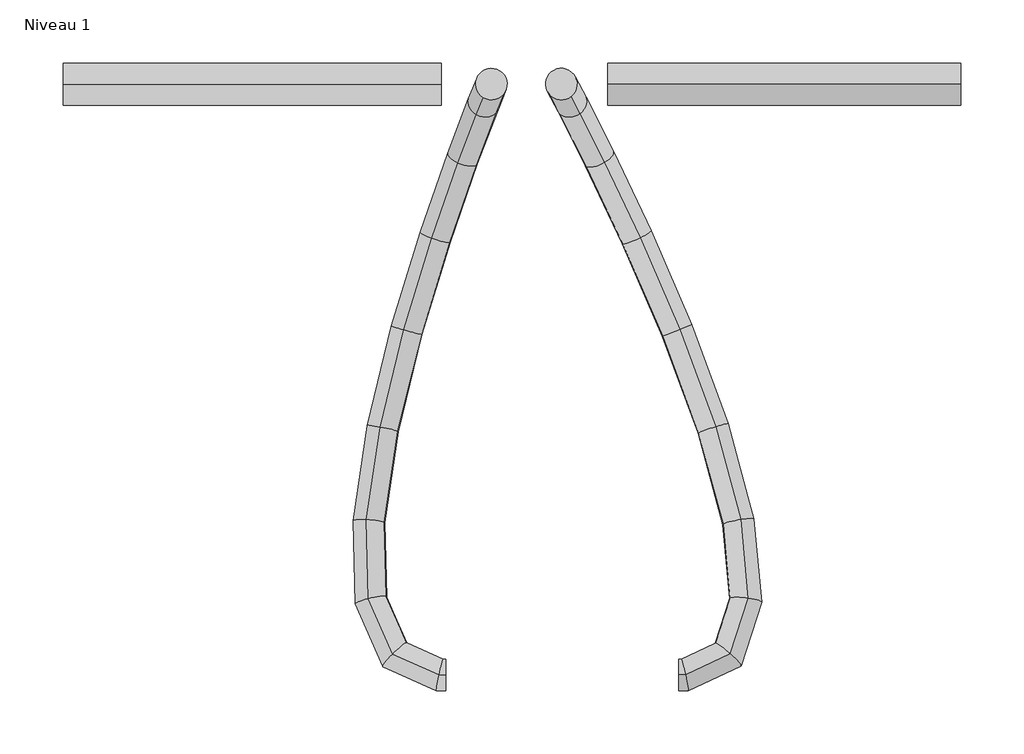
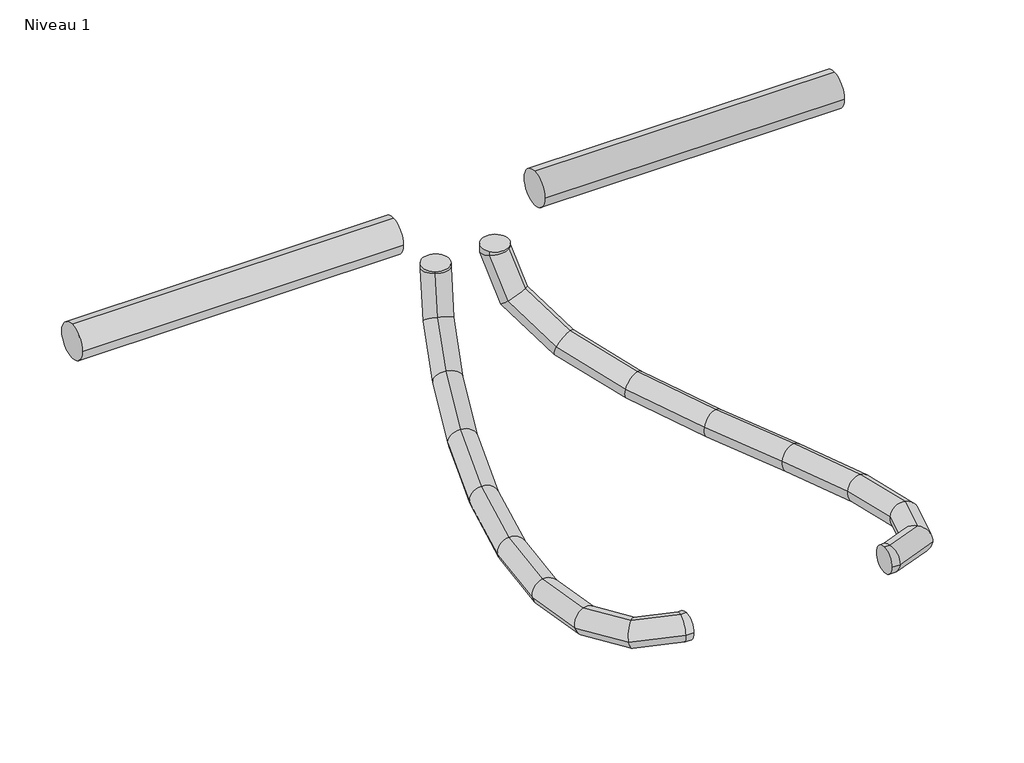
# One storey, incomplete: 4 pipe segments.
"""IFC4 building model written with IfcOpenShell, lengths in millimetres."""

from ifc_helpers import new_model, si_unit, point, frame, frame_2d, origin, place, context, project, spatial, circle_curve, ellipse_curve, trimmed, segment, composite_curve, outline, extrude, element, save
from ifc_brep_helpers import plane_surface, cylinder_surface, advanced_brep

model = new_model("IFC4")

# Units and contexts
model_context = context("Model", 3, world=origin())
ifc_project = project(units=[si_unit("LENGTHUNIT", "METRE", prefix="MILLI")], contexts=[model_context])

# Site, building, storey
site = spatial("IfcSite", under=ifc_project)
building = spatial("IfcBuilding", under=site)
storey = spatial("IfcBuildingStorey", under=building, Name="Niveau 1", Elevation=0.0)

# Pipe segments
placement = place(None, origin())
element("IfcPipeSegment", 1, ObjectType="Souple - Circulaire", at=placement, inside=storey, context=model_context, shape_type="AdvancedBrep", body=[
    advanced_brep(
    [(-2110.4258983, 1226.132937, 496.5257359), (-2110.4258983, 1238.632937, 484.0257359), (-2110.4258983, 1251.132937, 496.5257359), (-2110.4258983, 1238.632937, 509.0257359), (-2117.7360752, 1226.132937, 496.5257359), (-2114.5436776, 1238.632937, 484.0257359), (-2112.3823318, 1251.132937, 496.5257359), (-2115.5747295, 1238.632937, 509.0257359), (-2084.82139, 1713.7707472, 557.9740311), (-2080.5480413, 1696.6173659, 557.9740311), (-2063.3946599, 1700.8907147, 557.9740311), (-2067.6680087, 1718.044096, 557.9740311), (-2160.2363077, 1245.2447408, 492.8450846), (-2149.1142342, 1254.1788683, 481.031819), (-2141.3687604, 1264.1677583, 494.0154217), (-2152.4908339, 1255.2336308, 505.8286873), (-2181.8326985, 1294.7974241, 484.3792616), (-2167.4938726, 1296.3507483, 473.8269685), (-2157.3201424, 1300.7680303, 487.7624521), (-2171.6589683, 1299.2147061, 498.3147451), (-2183.5967386, 1360.6329258, 475.1604874), (-2169.1609747, 1358.5684427, 465.1147865), (-2158.8981713, 1359.661434, 479.5157618), (-2173.3339351, 1361.7259171, 489.5614627), (-2172.4095593, 1436.2965907, 467.776516), (-2158.1790429, 1432.8439316, 457.8662864), (-2148.2215105, 1431.8722445, 472.4687524), (-2162.4520269, 1435.3249036, 482.378982), (-2153.1122799, 1515.163437, 464.9301555), (-2138.9609078, 1511.3873199, 455.0315997), (-2129.4488354, 1508.5950637, 469.6997714), (-2143.6002076, 1512.3711808, 479.5983272), (-2130.2161245, 1589.9433754, 469.4720652), (-2115.8994645, 1586.7070963, 459.6062976), (-2107.0687169, 1581.6896007, 474.1393148), (-2121.3853769, 1584.9258799, 484.0050825), (-2108.1715495, 1653.1774768, 484.3564697), (-2093.218744, 1651.7659592, 474.9202249), (-2085.6304932, 1643.1844047, 488.6143136), (-2100.5832987, 1644.5959223, 498.0505584), (-2091.4440929, 1697.2625365, 512.7656725), (-2075.0940309, 1699.5334753, 505.7024686), (-2069.6684211, 1685.2523003, 515.7236197), (-2086.018483, 1682.9813615, 522.7868235), (-2084.82139, 1713.7707472, 552.9510488), (-2067.6680087, 1718.044096, 550.7622433), (-2063.3946599, 1700.8907147, 553.7916802), (-2080.5480413, 1696.6173659, 555.9804857)],
    [
        (0, 1, circle_curve(frame((-2110.4258983, 1238.632937, 496.5257359), z_axis=(1.0, 0.0, 0.0), x_axis=(0.0, -1.0, 0.0)), 12.5)),
        (1, 2, circle_curve(frame((-2110.4258983, 1238.632937, 496.5257359), z_axis=(1.0, 0.0, 0.0), x_axis=(0.0, -1.0, 0.0)), 12.5)),
        (2, 3, circle_curve(frame((-2110.4258983, 1238.632937, 496.5257359), z_axis=(1.0, 0.0, 0.0), x_axis=(0.0, -1.0, 0.0)), 12.5)),
        (3, 0, circle_curve(frame((-2110.4258983, 1238.632937, 496.5257359), z_axis=(1.0, 0.0, 0.0), x_axis=(0.0, -1.0, 0.0)), 12.5)),
        (0, 4),
        (4, 5, ellipse_curve(frame((-2115.0592035, 1238.632937, 496.5257359), z_axis=(0.9770354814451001, -0.2092318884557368, 0.04029497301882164), x_axis=(0.21307667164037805, 0.9594057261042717, -0.184767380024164)), 12.7938035, 12.5)),
        (5, 1),
        (5, 6, ellipse_curve(frame((-2115.0592035, 1238.632937, 496.5257359), z_axis=(0.9770354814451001, -0.2092318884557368, 0.04029497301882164), x_axis=(0.21307667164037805, 0.9594057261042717, -0.184767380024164)), 12.7938035, 12.5)),
        (6, 2),
        (6, 7, ellipse_curve(frame((-2115.0592035, 1238.632937, 496.5257359), z_axis=(0.9770354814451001, -0.2092318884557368, 0.04029497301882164), x_axis=(0.21307667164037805, 0.9594057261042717, -0.184767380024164)), 12.7938035, 12.5)),
        (7, 3),
        (7, 4, ellipse_curve(frame((-2115.0592035, 1238.632937, 496.5257359), z_axis=(0.9770354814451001, -0.2092318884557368, 0.04029497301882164), x_axis=(0.21307667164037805, 0.9594057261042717, -0.184767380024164)), 12.7938035, 12.5)),
        (8, 9, circle_curve(frame((-2074.108025, 1707.3307309, 557.9740311), z_axis=(0.0, 0.0, 1.0), x_axis=(-0.8570692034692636, 0.5152013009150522, 0.0)), 12.5)),
        (9, 10, circle_curve(frame((-2074.108025, 1707.3307309, 557.9740311), z_axis=(0.0, 0.0, 1.0), x_axis=(-0.8570692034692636, 0.5152013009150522, 0.0)), 12.5)),
        (10, 11, circle_curve(frame((-2074.108025, 1707.3307309, 557.9740311), z_axis=(0.0, 0.0, 1.0), x_axis=(-0.8570692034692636, 0.5152013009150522, 0.0)), 12.5)),
        (11, 8, circle_curve(frame((-2074.108025, 1707.3307309, 557.9740311), z_axis=(0.0, 0.0, 1.0), x_axis=(-0.8570692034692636, 0.5152013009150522, 0.0)), 12.5)),
        (4, 12),
        (12, 13, ellipse_curve(frame((-2150.802534, 1254.7062496, 493.4302532), z_axis=(0.6987010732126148, -0.7043902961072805, 0.12510444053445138), x_axis=(0.7153131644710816, 0.6907704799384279, -0.10565614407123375)), 13.3962051, 12.5)),
        (13, 5),
        (13, 14, ellipse_curve(frame((-2150.802534, 1254.7062496, 493.4302532), z_axis=(0.6987010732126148, -0.7043902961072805, 0.12510444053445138), x_axis=(0.7153131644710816, 0.6907704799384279, -0.10565614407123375)), 13.3962051, 12.5)),
        (14, 6),
        (14, 15, ellipse_curve(frame((-2150.802534, 1254.7062496, 493.4302532), z_axis=(0.6987010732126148, -0.7043902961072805, 0.12510444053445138), x_axis=(0.7153131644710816, 0.6907704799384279, -0.10565614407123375)), 13.3962051, 12.5)),
        (15, 7),
        (15, 12, ellipse_curve(frame((-2150.802534, 1254.7062496, 493.4302532), z_axis=(0.6987010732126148, -0.7043902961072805, 0.12510444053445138), x_axis=(0.7153131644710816, 0.6907704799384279, -0.10565614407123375)), 13.3962051, 12.5)),
        (12, 16),
        (16, 17, ellipse_curve(frame((-2169.5764205, 1297.7827272, 486.0708568), z_axis=(0.21448999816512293, -0.9652369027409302, 0.14937122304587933), x_axis=(0.9738862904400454, 0.223004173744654, 0.042598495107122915)), 12.7295031, 12.5)),
        (17, 13),
        (17, 18, ellipse_curve(frame((-2169.5764205, 1297.7827272, 486.0708568), z_axis=(0.21448999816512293, -0.9652369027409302, 0.14937122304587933), x_axis=(0.9738862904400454, 0.223004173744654, 0.042598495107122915)), 12.7295031, 12.5)),
        (18, 14),
        (18, 19, ellipse_curve(frame((-2169.5764205, 1297.7827272, 486.0708568), z_axis=(0.21448999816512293, -0.9652369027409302, 0.14937122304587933), x_axis=(0.9738862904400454, 0.223004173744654, 0.042598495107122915)), 12.7295031, 12.5)),
        (19, 15),
        (19, 16, ellipse_curve(frame((-2169.5764205, 1297.7827272, 486.0708568), z_axis=(0.21448999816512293, -0.9652369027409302, 0.14937122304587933), x_axis=(0.9738862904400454, 0.223004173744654, 0.042598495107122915)), 12.7295031, 12.5)),
        (16, 20),
        (20, 21, ellipse_curve(frame((-2171.2474549, 1360.1471799, 477.3381246), z_axis=(-0.059765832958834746, -0.9912343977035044, 0.1178236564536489), x_axis=(0.9703599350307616, -0.030003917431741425, 0.23979441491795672)), 12.5494488, 12.5)),
        (21, 17),
        (21, 22, ellipse_curve(frame((-2171.2474549, 1360.1471799, 477.3381246), z_axis=(-0.059765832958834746, -0.9912343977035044, 0.1178236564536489), x_axis=(0.9703599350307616, -0.030003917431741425, 0.23979441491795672)), 12.5494488, 12.5)),
        (22, 18),
        (22, 23, ellipse_curve(frame((-2171.2474549, 1360.1471799, 477.3381246), z_axis=(-0.059765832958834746, -0.9912343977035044, 0.1178236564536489), x_axis=(0.9703599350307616, -0.030003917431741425, 0.23979441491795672)), 12.5494488, 12.5)),
        (23, 19),
        (23, 20, ellipse_curve(frame((-2171.2474549, 1360.1471799, 477.3381246), z_axis=(-0.059765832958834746, -0.9912343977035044, 0.1178236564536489), x_axis=(0.9703599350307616, -0.030003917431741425, 0.23979441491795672)), 12.5494488, 12.5)),
        (20, 24),
        (24, 25, ellipse_curve(frame((-2160.3155349, 1434.0844176, 470.1226342), z_axis=(-0.19185289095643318, -0.9792244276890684, 0.0656657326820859), x_axis=(0.8264799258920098, -0.1251189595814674, 0.5488863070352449)), 12.5193799, 12.5)),
        (25, 21),
        (25, 26, ellipse_curve(frame((-2160.3155349, 1434.0844176, 470.1226342), z_axis=(-0.19185289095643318, -0.9792244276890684, 0.0656657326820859), x_axis=(0.8264799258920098, -0.1251189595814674, 0.5488863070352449)), 12.5193799, 12.5)),
        (26, 22),
        (26, 27, ellipse_curve(frame((-2160.3155349, 1434.0844176, 470.1226342), z_axis=(-0.19185289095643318, -0.9792244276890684, 0.0656657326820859), x_axis=(0.8264799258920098, -0.1251189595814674, 0.5488863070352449)), 12.5193799, 12.5)),
        (27, 23),
        (27, 24, ellipse_curve(frame((-2160.3155349, 1434.0844176, 470.1226342), z_axis=(-0.19185289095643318, -0.9792244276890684, 0.0656657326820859), x_axis=(0.8264799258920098, -0.1251189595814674, 0.5488863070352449)), 12.5193799, 12.5)),
        (24, 28),
        (28, 29, ellipse_curve(frame((-2141.2805577, 1511.8792503, 467.3149635), z_axis=(-0.26529386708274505, -0.9640991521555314, -0.011488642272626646), x_axis=(0.5016543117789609, -0.14819777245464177, 0.8522795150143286)), 12.5186516, 12.5)),
        (29, 25),
        (29, 30, ellipse_curve(frame((-2141.2805577, 1511.8792503, 467.3149635), z_axis=(-0.26529386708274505, -0.9640991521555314, -0.011488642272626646), x_axis=(0.5016543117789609, -0.14819777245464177, 0.8522795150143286)), 12.5186516, 12.5)),
        (30, 26),
        (30, 31, ellipse_curve(frame((-2141.2805577, 1511.8792503, 467.3149635), z_axis=(-0.26529386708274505, -0.9640991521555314, -0.011488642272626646), x_axis=(0.5016543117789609, -0.14819777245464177, 0.8522795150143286)), 12.5186516, 12.5)),
        (31, 27),
        (31, 28, ellipse_curve(frame((-2141.2805577, 1511.8792503, 467.3149635), z_axis=(-0.26529386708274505, -0.9640991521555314, -0.011488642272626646), x_axis=(0.5016543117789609, -0.14819777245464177, 0.8522795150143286)), 12.5186516, 12.5)),
        (28, 32),
        (32, 33, ellipse_curve(frame((-2118.6424207, 1585.8164881, 471.80569), z_axis=(-0.3078578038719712, -0.9413792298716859, -0.13794461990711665), x_axis=(0.17628298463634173, -0.19891358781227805, 0.9640319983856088)), 12.5427186, 12.5)),
        (33, 29),
        (33, 34, ellipse_curve(frame((-2118.6424207, 1585.8164881, 471.80569), z_axis=(-0.3078578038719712, -0.9413792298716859, -0.13794461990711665), x_axis=(0.17628298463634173, -0.19891358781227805, 0.9640319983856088)), 12.5427186, 12.5)),
        (34, 30),
        (34, 35, ellipse_curve(frame((-2118.6424207, 1585.8164881, 471.80569), z_axis=(-0.3078578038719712, -0.9413792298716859, -0.13794461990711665), x_axis=(0.17628298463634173, -0.19891358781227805, 0.9640319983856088)), 12.5427186, 12.5)),
        (35, 31),
        (35, 32, ellipse_curve(frame((-2118.6424207, 1585.8164881, 471.80569), z_axis=(-0.3078578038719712, -0.9413792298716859, -0.13794461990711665), x_axis=(0.17628298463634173, -0.19891358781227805, 0.9640319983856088)), 12.5427186, 12.5)),
        (32, 36),
        (36, 37, ellipse_curve(frame((-2096.9010213, 1648.1809408, 486.4853916), z_axis=(-0.31676651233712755, -0.8727662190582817, -0.37140019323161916), x_axis=(-0.054103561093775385, -0.3743009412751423, 0.9257276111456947)), 12.6663764, 12.5)),
        (37, 33),
        (37, 38, ellipse_curve(frame((-2096.9010213, 1648.1809408, 486.4853916), z_axis=(-0.31676651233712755, -0.8727662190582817, -0.37140019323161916), x_axis=(-0.054103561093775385, -0.3743009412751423, 0.9257276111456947)), 12.6663764, 12.5)),
        (38, 34),
        (38, 39, ellipse_curve(frame((-2096.9010213, 1648.1809408, 486.4853916), z_axis=(-0.31676651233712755, -0.8727662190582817, -0.37140019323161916), x_axis=(-0.054103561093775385, -0.3743009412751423, 0.9257276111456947)), 12.6663764, 12.5)),
        (39, 35),
        (39, 36, ellipse_curve(frame((-2096.9010213, 1648.1809408, 486.4853916), z_axis=(-0.31676651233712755, -0.8727662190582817, -0.37140019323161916), x_axis=(-0.054103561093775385, -0.3743009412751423, 0.9257276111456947)), 12.6663764, 12.5)),
        (36, 40),
        (40, 41, ellipse_curve(frame((-2080.556257, 1691.2574184, 514.2446461), z_axis=(-0.23835349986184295, -0.616892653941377, -0.75008736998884), x_axis=(-0.25424125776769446, -0.7057776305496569, 0.6612407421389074)), 13.1088369, 12.5)),
        (41, 37),
        (41, 42, ellipse_curve(frame((-2080.556257, 1691.2574184, 514.2446461), z_axis=(-0.23835349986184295, -0.616892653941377, -0.75008736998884), x_axis=(-0.25424125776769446, -0.7057776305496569, 0.6612407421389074)), 13.1088369, 12.5)),
        (42, 38),
        (42, 43, ellipse_curve(frame((-2080.556257, 1691.2574184, 514.2446461), z_axis=(-0.23835349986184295, -0.616892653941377, -0.75008736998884), x_axis=(-0.25424125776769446, -0.7057776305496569, 0.6612407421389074)), 13.1088369, 12.5)),
        (43, 39),
        (43, 40, ellipse_curve(frame((-2080.556257, 1691.2574184, 514.2446461), z_axis=(-0.23835349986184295, -0.616892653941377, -0.75008736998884), x_axis=(-0.25424125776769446, -0.7057776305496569, 0.6612407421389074)), 13.1088369, 12.5)),
        (40, 44),
        (44, 45, ellipse_curve(frame((-2074.108025, 1707.3307309, 553.3713645), z_axis=(-0.0770161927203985, -0.1919759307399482, -0.9783730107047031), x_axis=(-0.3642792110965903, -0.9080277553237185, 0.20684837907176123)), 12.7763132, 12.5)),
        (45, 41),
        (45, 46, ellipse_curve(frame((-2074.108025, 1707.3307309, 553.3713645), z_axis=(-0.0770161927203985, -0.1919759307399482, -0.9783730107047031), x_axis=(-0.3642792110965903, -0.9080277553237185, 0.20684837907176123)), 12.7763132, 12.5)),
        (46, 42),
        (46, 47, ellipse_curve(frame((-2074.108025, 1707.3307309, 553.3713645), z_axis=(-0.0770161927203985, -0.1919759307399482, -0.9783730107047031), x_axis=(-0.3642792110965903, -0.9080277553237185, 0.20684837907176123)), 12.7763132, 12.5)),
        (47, 43),
        (47, 44, ellipse_curve(frame((-2074.108025, 1707.3307309, 553.3713645), z_axis=(-0.0770161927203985, -0.1919759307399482, -0.9783730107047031), x_axis=(-0.3642792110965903, -0.9080277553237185, 0.20684837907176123)), 12.7763132, 12.5)),
        (44, 8),
        (11, 45),
        (10, 46),
        (9, 47),
    ],
    [
        plane_surface(frame((-2110.4258983, 1238.632937, 484.0257359), z_axis=(1.0, 0.0, 0.0), x_axis=(0.0, -1.0, 0.0))),
        cylinder_surface(frame((-2110.4258983, 1238.632937, 496.5257359), z_axis=(1.0, 0.0, 0.0), x_axis=(0.0, -1.0, 0.0)), 12.5),
        plane_surface(frame((-2074.108025, 1694.8307309, 557.9740311), z_axis=(0.0, 0.0, 1.0), x_axis=(1.0, 0.0, 0.0))),
        cylinder_surface(frame((-2115.0592035, 1238.632937, 496.5257359), z_axis=(0.9091966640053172, -0.40885395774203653, 0.07873923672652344), x_axis=(-0.40885395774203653, -0.9124440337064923, -0.016861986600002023)), 12.5),
        cylinder_surface(frame((-2150.802534, 1254.7062496, 493.4302532), z_axis=(0.39471938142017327, -0.9056793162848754, 0.1547306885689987), x_axis=(-0.9048485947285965, -0.41241072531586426, -0.10567125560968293)), 12.5),
        cylinder_surface(frame((-2169.5764205, 1297.7827272, 486.0708568), z_axis=(0.02652643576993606, -0.9899895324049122, 0.13862566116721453), x_axis=(-0.9855864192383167, -0.049078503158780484, -0.16189722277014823)), 12.5),
        cylinder_surface(frame((-2171.2474549, 1360.1471799, 477.3381246), z_axis=(-0.14558710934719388, -0.9846677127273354, 0.09609312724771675), x_axis=(-0.9750105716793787, 0.12632512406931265, -0.18274667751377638)), 12.5),
        cylinder_surface(frame((-2160.3155349, 1434.0844176, 470.1226342), z_axis=(-0.2375247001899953, -0.9707494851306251, 0.035035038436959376), x_axis=(-0.9553043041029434, 0.22690666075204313, -0.18949156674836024)), 12.5),
        cylinder_surface(frame((-2141.2805577, 1511.8792503, 467.3149635), z_axis=(-0.29227250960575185, -0.9545759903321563, -0.05797808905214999), x_axis=(-0.9357506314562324, 0.29796627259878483, -0.18864478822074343)), 12.5),
        cylinder_surface(frame((-2118.6424207, 1585.8164881, 471.80569), z_axis=(-0.3213460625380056, -0.9217700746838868, -0.21697151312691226), x_axis=(-0.9150617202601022, 0.36122960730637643, -0.17937452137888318)), 12.5),
        cylinder_surface(frame((-2096.9010213, 1648.1809408, 486.4853916), z_axis=(-0.30386532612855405, -0.8008342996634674, -0.5160719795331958), x_axis=(-0.8889527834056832, 0.4331658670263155, -0.148762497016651)), 12.5),
        cylinder_surface(frame((-2080.556257, 1691.2574184, 514.2446461), z_axis=(-0.15070112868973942, -0.37564813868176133, -0.9144274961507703), x_axis=(-0.862136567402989, 0.5025700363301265, -0.06437311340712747)), 12.5),
        cylinder_surface(frame((-2074.108025, 1707.3307309, 553.3713645), z_axis=(0.0, 0.0, -1.0000000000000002), x_axis=(-0.8570692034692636, 0.5152013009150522, 0.0)), 12.5),
    ],
    [
        (0, [[1, 2, 3, 4]]),
        (1, [[-1, 5, 6, 7]]),
        (1, [[-2, -7, 8, 9]]),
        (1, [[-3, -9, 10, 11]]),
        (1, [[-4, -11, 12, -5]]),
        (2, [[13, 14, 15, 16]]),
        (3, [[-6, 17, 18, 19]]),
        (3, [[-8, -19, 20, 21]]),
        (3, [[-10, -21, 22, 23]]),
        (3, [[-12, -23, 24, -17]]),
        (4, [[-18, 25, 26, 27]]),
        (4, [[-20, -27, 28, 29]]),
        (4, [[-22, -29, 30, 31]]),
        (4, [[-24, -31, 32, -25]]),
        (5, [[-26, 33, 34, 35]]),
        (5, [[-28, -35, 36, 37]]),
        (5, [[-30, -37, 38, 39]]),
        (5, [[-32, -39, 40, -33]]),
        (6, [[-34, 41, 42, 43]]),
        (6, [[-36, -43, 44, 45]]),
        (6, [[-38, -45, 46, 47]]),
        (6, [[-40, -47, 48, -41]]),
        (7, [[-42, 49, 50, 51]]),
        (7, [[-44, -51, 52, 53]]),
        (7, [[-46, -53, 54, 55]]),
        (7, [[-48, -55, 56, -49]]),
        (8, [[-50, 57, 58, 59]]),
        (8, [[-52, -59, 60, 61]]),
        (8, [[-54, -61, 62, 63]]),
        (8, [[-56, -63, 64, -57]]),
        (9, [[-58, 65, 66, 67]]),
        (9, [[-60, -67, 68, 69]]),
        (9, [[-62, -69, 70, 71]]),
        (9, [[-64, -71, 72, -65]]),
        (10, [[-66, 73, 74, 75]]),
        (10, [[-68, -75, 76, 77]]),
        (10, [[-70, -77, 78, 79]]),
        (10, [[-72, -79, 80, -73]]),
        (11, [[-74, 81, 82, 83]]),
        (11, [[-76, -83, 84, 85]]),
        (11, [[-78, -85, 86, 87]]),
        (11, [[-80, -87, 88, -81]]),
        (12, [[-82, 89, -16, 90]]),
        (12, [[-84, -90, -15, 91]]),
        (12, [[-86, -91, -14, 92]]),
        (12, [[-88, -92, -13, -89]]),
    ],
),
])
element("IfcPipeSegment", 2, ObjectType="Souple - Circulaire", at=placement, inside=storey, context=model_context, shape_type="AdvancedBrep", body=[
    advanced_brep(
    [(-1925.4011149, 1251.132937, 496.5257359), (-1925.4011149, 1238.632937, 484.0257359), (-1925.4011149, 1226.132937, 496.5257359), (-1925.4011149, 1238.632937, 509.0257359), (-1923.4128509, 1251.132937, 496.5257359), (-1921.1866734, 1238.632937, 484.0257359), (-1917.861466, 1226.132937, 496.5257359), (-1920.0876435, 1238.632937, 509.0257359), (-2028.384247, 1699.5262523, 557.91328), (-2010.8155422, 1697.5665047, 557.91328), (-2008.8557946, 1715.1352096, 557.91328), (-2026.4244994, 1717.0949572, 557.91328), (-1896.4011444, 1263.7770257, 494.0225351), (-1888.1604713, 1254.0923907, 480.965166), (-1876.1979815, 1245.6354734, 492.6647408), (-1884.4386546, 1255.3201084, 505.7221099), (-1884.8806253, 1299.4702873, 487.7447889), (-1874.6090249, 1296.0779398, 473.5807296), (-1859.9113818, 1296.0951671, 483.7898682), (-1870.1829822, 1299.4875146, 497.9539275), (-1890.3430524, 1358.2607979, 479.2459018), (-1880.3858272, 1358.2519775, 464.5927122), (-1866.0379433, 1362.0335619, 474.257667), (-1875.9951686, 1362.0423822, 488.9108565), (-1909.8869914, 1430.53875, 471.9144086), (-1900.461743, 1432.4973018, 457.0616592), (-1886.479223, 1437.6300852, 466.5895555), (-1895.9044714, 1435.6715334, 481.4423048), (-1938.2053725, 1507.3238113, 468.924642), (-1929.4080635, 1510.9850156, 454.0055967), (-1915.5424129, 1516.4346894, 463.5211543), (-1924.3397219, 1512.773485, 478.4401995), (-1969.7477422, 1580.457306, 473.2734593), (-1961.8481628, 1586.1999679, 458.4781861), (-1947.778089, 1591.1756701, 467.9655594), (-1955.6776684, 1585.4330083, 482.7608326), (-1998.9240867, 1641.9554973, 487.8454813), (-1992.6221325, 1651.0656496, 473.8481363), (-1977.7763875, 1654.4063842, 482.9481033), (-1984.0783416, 1645.2962319, 496.9454483), (-2020.1637925, 1683.9524263, 515.2538686), (-2016.6668449, 1698.6088731, 504.8761927), (-2000.1080443, 1698.5624105, 511.7655787), (-2003.6049919, 1683.9059637, 522.1432546), (-2028.384247, 1699.5262523, 553.6895815), (-2026.4244994, 1717.0949572, 550.4992669), (-2008.8557946, 1715.1352096, 552.6667256), (-2010.8155422, 1697.5665047, 555.8570402)],
    [
        (0, 1, circle_curve(frame((-1925.4011149, 1238.632937, 496.5257359), z_axis=(-1.0, 0.0, 0.0), x_axis=(0.0, 1.0, 0.0)), 12.5)),
        (1, 2, circle_curve(frame((-1925.4011149, 1238.632937, 496.5257359), z_axis=(-1.0, 0.0, 0.0), x_axis=(0.0, 1.0, 0.0)), 12.5)),
        (2, 3, circle_curve(frame((-1925.4011149, 1238.632937, 496.5257359), z_axis=(-1.0, 0.0, 0.0), x_axis=(0.0, 1.0, 0.0)), 12.5)),
        (3, 0, circle_curve(frame((-1925.4011149, 1238.632937, 496.5257359), z_axis=(-1.0, 0.0, 0.0), x_axis=(0.0, 1.0, 0.0)), 12.5)),
        (0, 4),
        (4, 5, ellipse_curve(frame((-1920.6371585, 1238.632937, 496.5257359), z_axis=(-0.975323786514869, -0.2165759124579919, 0.04287639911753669), x_axis=(-0.22077932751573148, 0.9567546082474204, -0.18941253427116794)), 12.8162567, 12.5)),
        (5, 1),
        (5, 6, ellipse_curve(frame((-1920.6371585, 1238.632937, 496.5257359), z_axis=(-0.975323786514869, -0.2165759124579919, 0.04287639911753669), x_axis=(-0.22077932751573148, 0.9567546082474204, -0.18941253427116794)), 12.8162567, 12.5)),
        (6, 2),
        (6, 7, ellipse_curve(frame((-1920.6371585, 1238.632937, 496.5257359), z_axis=(-0.975323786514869, -0.2165759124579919, 0.04287639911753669), x_axis=(-0.22077932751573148, 0.9567546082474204, -0.18941253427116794)), 12.8162567, 12.5)),
        (7, 3),
        (7, 4, ellipse_curve(frame((-1920.6371585, 1238.632937, 496.5257359), z_axis=(-0.975323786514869, -0.2165759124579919, 0.04287639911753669), x_axis=(-0.22077932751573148, 0.9567546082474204, -0.18941253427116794)), 12.8162567, 12.5)),
        (8, 9, circle_curve(frame((-2018.6200208, 1707.3307309, 557.91328), z_axis=(0.0, 0.0, 1.0), x_axis=(-0.7811380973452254, -0.6243582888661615, 0.0)), 12.5)),
        (9, 10, circle_curve(frame((-2018.6200208, 1707.3307309, 557.91328), z_axis=(0.0, 0.0, 1.0), x_axis=(-0.7811380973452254, -0.6243582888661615, 0.0)), 12.5)),
        (10, 11, circle_curve(frame((-2018.6200208, 1707.3307309, 557.91328), z_axis=(0.0, 0.0, 1.0), x_axis=(-0.7811380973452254, -0.6243582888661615, 0.0)), 12.5)),
        (11, 8, circle_curve(frame((-2018.6200208, 1707.3307309, 557.91328), z_axis=(0.0, 0.0, 1.0), x_axis=(-0.7811380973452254, -0.6243582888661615, 0.0)), 12.5)),
        (4, 12),
        (12, 13, ellipse_curve(frame((-1886.2995629, 1254.7062496, 493.3436379), z_axis=(-0.6569006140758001, -0.7416950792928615, 0.13553594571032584), x_axis=(-0.7538815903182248, 0.648980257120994, -0.10240690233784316)), 13.6234429, 12.5)),
        (13, 5),
        (13, 14, ellipse_curve(frame((-1886.2995629, 1254.7062496, 493.3436379), z_axis=(-0.6569006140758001, -0.7416950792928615, 0.13553594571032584), x_axis=(-0.7538815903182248, 0.648980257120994, -0.10240690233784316)), 13.6234429, 12.5)),
        (14, 6),
        (14, 15, ellipse_curve(frame((-1886.2995629, 1254.7062496, 493.3436379), z_axis=(-0.6569006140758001, -0.7416950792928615, 0.13553594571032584), x_axis=(-0.7538815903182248, 0.648980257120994, -0.10240690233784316)), 13.6234429, 12.5)),
        (15, 7),
        (15, 12, ellipse_curve(frame((-1886.2995629, 1254.7062496, 493.3436379), z_axis=(-0.6569006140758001, -0.7416950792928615, 0.13553594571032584), x_axis=(-0.7538815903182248, 0.648980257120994, -0.10240690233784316)), 13.6234429, 12.5)),
        (12, 16),
        (16, 17, ellipse_curve(frame((-1872.3960035, 1297.7827272, 485.7673286), z_axis=(-0.10784426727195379, -0.9817062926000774, 0.15691516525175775), x_axis=(-0.9913885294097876, 0.11798852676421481, 0.056811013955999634)), 12.7550361, 12.5)),
        (17, 13),
        (17, 18, ellipse_curve(frame((-1872.3960035, 1297.7827272, 485.7673286), z_axis=(-0.10784426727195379, -0.9817062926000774, 0.15691516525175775), x_axis=(-0.9913885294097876, 0.11798852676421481, 0.056811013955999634)), 12.7550361, 12.5)),
        (18, 14),
        (18, 19, ellipse_curve(frame((-1872.3960035, 1297.7827272, 485.7673286), z_axis=(-0.10784426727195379, -0.9817062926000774, 0.15691516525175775), x_axis=(-0.9913885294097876, 0.11798852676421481, 0.056811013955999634)), 12.7550361, 12.5)),
        (19, 15),
        (19, 16, ellipse_curve(frame((-1872.3960035, 1297.7827272, 485.7673286), z_axis=(-0.10784426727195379, -0.9817062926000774, 0.15691516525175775), x_axis=(-0.9913885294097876, 0.11798852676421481, 0.056811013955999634)), 12.7550361, 12.5)),
        (16, 20),
        (20, 21, ellipse_curve(frame((-1878.1904979, 1360.1471799, 476.7517844), z_axis=(0.17636046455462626, -0.9769307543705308, 0.12042959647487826), x_axis=(-0.9563353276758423, -0.14108915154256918, 0.2559620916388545)), 12.548623, 12.5)),
        (21, 17),
        (21, 22, ellipse_curve(frame((-1878.1904979, 1360.1471799, 476.7517844), z_axis=(0.17636046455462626, -0.9769307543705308, 0.12042959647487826), x_axis=(-0.9563353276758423, -0.14108915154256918, 0.2559620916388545)), 12.548623, 12.5)),
        (22, 18),
        (22, 23, ellipse_curve(frame((-1878.1904979, 1360.1471799, 476.7517844), z_axis=(0.17636046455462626, -0.9769307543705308, 0.12042959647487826), x_axis=(-0.9563353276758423, -0.14108915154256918, 0.2559620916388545)), 12.548623, 12.5)),
        (23, 19),
        (23, 20, ellipse_curve(frame((-1878.1904979, 1360.1471799, 476.7517844), z_axis=(0.17636046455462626, -0.9769307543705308, 0.12042959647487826), x_axis=(-0.9563353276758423, -0.14108915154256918, 0.2559620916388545)), 12.548623, 12.5)),
        (20, 24),
        (24, 25, ellipse_curve(frame((-1898.1831072, 1434.0844176, 469.251982), z_axis=(0.30322742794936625, -0.950554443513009, 0.06707739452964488), x_axis=(-0.7969459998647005, -0.21437514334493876, 0.5647303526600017)), 12.5182373, 12.5)),
        (25, 21),
        (25, 26, ellipse_curve(frame((-1898.1831072, 1434.0844176, 469.251982), z_axis=(0.30322742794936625, -0.950554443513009, 0.06707739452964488), x_axis=(-0.7969459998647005, -0.21437514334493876, 0.5647303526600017)), 12.5182373, 12.5)),
        (26, 22),
        (26, 27, ellipse_curve(frame((-1898.1831072, 1434.0844176, 469.251982), z_axis=(0.30322742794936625, -0.950554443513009, 0.06707739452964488), x_axis=(-0.7969459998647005, -0.21437514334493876, 0.5647303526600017)), 12.5182373, 12.5)),
        (27, 23),
        (27, 24, ellipse_curve(frame((-1898.1831072, 1434.0844176, 469.251982), z_axis=(0.30322742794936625, -0.950554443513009, 0.06707739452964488), x_axis=(-0.7969459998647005, -0.21437514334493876, 0.5647303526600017)), 12.5182373, 12.5)),
        (24, 28),
        (28, 29, ellipse_curve(frame((-1926.8738927, 1511.8792503, 466.2228981), z_axis=(0.37113562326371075, -0.928534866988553, -0.00901941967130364), x_axis=(-0.4695936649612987, -0.19605855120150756, 0.8608384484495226)), 12.5175081, 12.5)),
        (29, 25),
        (29, 30, ellipse_curve(frame((-1926.8738927, 1511.8792503, 466.2228981), z_axis=(0.37113562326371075, -0.928534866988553, -0.00901941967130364), x_axis=(-0.4695936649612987, -0.19605855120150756, 0.8608384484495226)), 12.5175081, 12.5)),
        (30, 26),
        (30, 31, ellipse_curve(frame((-1926.8738927, 1511.8792503, 466.2228981), z_axis=(0.37113562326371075, -0.928534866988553, -0.00901941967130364), x_axis=(-0.4695936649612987, -0.19605855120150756, 0.8608384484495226)), 12.5175081, 12.5)),
        (31, 27),
        (31, 28, ellipse_curve(frame((-1926.8738927, 1511.8792503, 466.2228981), z_axis=(0.37113562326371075, -0.928534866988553, -0.00901941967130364), x_axis=(-0.4695936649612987, -0.19605855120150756, 0.8608384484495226)), 12.5175081, 12.5)),
        (28, 32),
        (32, 33, ellipse_curve(frame((-1958.7629156, 1585.8164881, 470.6195093), z_axis=(0.408602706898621, -0.9030649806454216, -0.13235357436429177), x_axis=(-0.14794386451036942, -0.208624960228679, 0.9667410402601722)), 12.5402646, 12.5)),
        (33, 29),
        (33, 34, ellipse_curve(frame((-1958.7629156, 1585.8164881, 470.6195093), z_axis=(0.408602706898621, -0.9030649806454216, -0.13235357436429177), x_axis=(-0.14794386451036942, -0.208624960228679, 0.9667410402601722)), 12.5402646, 12.5)),
        (34, 30),
        (34, 35, ellipse_curve(frame((-1958.7629156, 1585.8164881, 470.6195093), z_axis=(0.408602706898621, -0.9030649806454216, -0.13235357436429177), x_axis=(-0.14794386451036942, -0.208624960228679, 0.9667410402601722)), 12.5402646, 12.5)),
        (35, 31),
        (35, 32, ellipse_curve(frame((-1958.7629156, 1585.8164881, 470.6195093), z_axis=(0.408602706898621, -0.9030649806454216, -0.13235357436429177), x_axis=(-0.14794386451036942, -0.208624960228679, 0.9667410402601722)), 12.5402646, 12.5)),
        (32, 36),
        (36, 37, ellipse_curve(frame((-1988.3502371, 1648.1809408, 485.3967923), z_axis=(0.40971124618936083, -0.8378175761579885, -0.36083015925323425), x_axis=(0.09222641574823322, -0.3554828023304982, 0.9301216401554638)), 12.659013, 12.5)),
        (37, 33),
        (37, 38, ellipse_curve(frame((-1988.3502371, 1648.1809408, 485.3967923), z_axis=(0.40971124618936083, -0.8378175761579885, -0.36083015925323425), x_axis=(0.09222641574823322, -0.3554828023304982, 0.9301216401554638)), 12.659013, 12.5)),
        (38, 34),
        (38, 39, ellipse_curve(frame((-1988.3502371, 1648.1809408, 485.3967923), z_axis=(0.40971124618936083, -0.8378175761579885, -0.36083015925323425), x_axis=(0.09222641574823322, -0.3554828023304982, 0.9301216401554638)), 12.659013, 12.5)),
        (39, 35),
        (39, 36, ellipse_curve(frame((-1988.3502371, 1648.1809408, 485.3967923), z_axis=(0.40971124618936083, -0.8378175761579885, -0.36083015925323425), x_axis=(0.09222641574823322, -0.3554828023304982, 0.9301216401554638)), 12.659013, 12.5)),
        (36, 40),
        (40, 41, ellipse_curve(frame((-2010.1359184, 1691.2574184, 513.5097237), z_axis=(0.30654333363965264, -0.5976825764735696, -0.7408149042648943), x_axis=(0.3236044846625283, -0.6664874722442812, 0.6716208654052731)), 13.1128926, 12.5)),
        (41, 37),
        (41, 42, ellipse_curve(frame((-2010.1359184, 1691.2574184, 513.5097237), z_axis=(0.30654333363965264, -0.5976825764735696, -0.7408149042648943), x_axis=(0.3236044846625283, -0.6664874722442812, 0.6716208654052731)), 13.1128926, 12.5)),
        (42, 38),
        (42, 43, ellipse_curve(frame((-2010.1359184, 1691.2574184, 513.5097237), z_axis=(0.30654333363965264, -0.5976825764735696, -0.7408149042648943), x_axis=(0.3236044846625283, -0.6664874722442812, 0.6716208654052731)), 13.1128926, 12.5)),
        (43, 39),
        (43, 40, ellipse_curve(frame((-2010.1359184, 1691.2574184, 513.5097237), z_axis=(0.30654333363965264, -0.5976825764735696, -0.7408149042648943), x_axis=(0.3236044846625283, -0.6664874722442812, 0.6716208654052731)), 13.1128926, 12.5)),
        (40, 44),
        (44, 45, ellipse_curve(frame((-2018.6200208, 1707.3307309, 553.1781536), z_axis=(0.09950626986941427, -0.18851674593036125, -0.9770158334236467), x_axis=(0.4560711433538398, -0.8640364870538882, 0.21316674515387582)), 12.7940608, 12.5)),
        (45, 41),
        (45, 46, ellipse_curve(frame((-2018.6200208, 1707.3307309, 553.1781536), z_axis=(0.09950626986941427, -0.18851674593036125, -0.9770158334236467), x_axis=(0.4560711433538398, -0.8640364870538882, 0.21316674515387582)), 12.7940608, 12.5)),
        (46, 42),
        (46, 47, ellipse_curve(frame((-2018.6200208, 1707.3307309, 553.1781536), z_axis=(0.09950626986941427, -0.18851674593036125, -0.9770158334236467), x_axis=(0.4560711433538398, -0.8640364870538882, 0.21316674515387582)), 12.7940608, 12.5)),
        (47, 43),
        (47, 44, ellipse_curve(frame((-2018.6200208, 1707.3307309, 553.1781536), z_axis=(0.09950626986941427, -0.18851674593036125, -0.9770158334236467), x_axis=(0.4560711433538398, -0.8640364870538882, 0.21316674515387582)), 12.7940608, 12.5)),
        (44, 8),
        (11, 45),
        (10, 46),
        (9, 47),
    ],
    [
        plane_surface(frame((-1925.4011149, 1238.632937, 484.0257359), z_axis=(-1.0, 0.0, 0.0), x_axis=(0.0, 1.0, 0.0))),
        cylinder_surface(frame((-1925.4011149, 1238.632937, 496.5257359), z_axis=(-1.0, 0.0, 0.0), x_axis=(0.0, 1.0, 0.0)), 12.5),
        plane_surface(frame((-2018.6200208, 1694.8307309, 557.91328), z_axis=(0.0, 0.0, 1.0), x_axis=(1.0, 0.0, 0.0))),
        cylinder_surface(frame((-1920.6371585, 1238.632937, 496.5257359), z_axis=(-0.9025129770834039, -0.422463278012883, 0.08363674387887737), x_axis=(-0.422463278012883, 0.9061897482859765, 0.018571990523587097)), 12.5),
        cylinder_surface(frame((-1886.2995629, 1254.7062496, 493.3436379), z_axis=(-0.30294701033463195, -0.938600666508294, 0.16508148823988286), x_axis=(-0.9375822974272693, 0.32457780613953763, 0.12485464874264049)), 12.5),
        cylinder_surface(frame((-1872.3960035, 1297.7827272, 485.7673286), z_axis=(0.09157115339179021, -0.9855536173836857, 0.1424738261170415), x_axis=(-0.9802747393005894, -0.06405146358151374, 0.18697284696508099)), 12.5),
        cylinder_surface(frame((-1878.1904979, 1360.1471799, 476.7517844), z_axis=(0.2597830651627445, -0.9607371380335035, 0.09745209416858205), x_axis=(-0.9493090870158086, -0.23558252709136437, 0.20811806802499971)), 12.5),
        cylinder_surface(frame((-1898.1831072, 1434.0844176, 469.251982), z_axis=(0.34578827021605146, -0.9376020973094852, 0.03650724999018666), x_axis=(-0.9190090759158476, -0.33056671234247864, 0.21482077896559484)), 12.5),
        cylinder_surface(frame((-1926.8738927, 1511.8792503, 466.2228981), z_axis=(0.3954447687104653, -0.9168701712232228, -0.0545208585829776), x_axis=(-0.8922339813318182, -0.3975546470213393, 0.21417008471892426)), 12.5),
        cylinder_surface(frame((-1958.7629156, 1585.8164881, 470.6195093), z_axis=(0.419136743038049, -0.8834606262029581, -0.20933636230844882), x_axis=(-0.8645325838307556, -0.4587783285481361, 0.20519711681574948)), 12.5),
        cylinder_surface(frame((-1988.3502371, 1648.1809408, 485.3967923), z_axis=(0.38999277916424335, -0.7711264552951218, -0.503259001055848), x_axis=(-0.8285783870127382, -0.5323009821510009, 0.17353247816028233)), 12.5),
        cylinder_surface(frame((-2010.1359184, 1691.2574184, 513.5097237), z_axis=(0.1944384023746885, -0.3683676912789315, -0.9091198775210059), x_axis=(-0.7890933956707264, -0.6092868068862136, 0.07811017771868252)), 12.5),
        cylinder_surface(frame((-2018.6200208, 1707.3307309, 553.1781536), z_axis=(0.0, 0.0, -1.0000000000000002), x_axis=(-0.7811380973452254, -0.6243582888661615, 0.0)), 12.5),
    ],
    [
        (0, [[1, 2, 3, 4]]),
        (1, [[-1, 5, 6, 7]]),
        (1, [[-2, -7, 8, 9]]),
        (1, [[-3, -9, 10, 11]]),
        (1, [[-4, -11, 12, -5]]),
        (2, [[13, 14, 15, 16]]),
        (3, [[-6, 17, 18, 19]]),
        (3, [[-8, -19, 20, 21]]),
        (3, [[-10, -21, 22, 23]]),
        (3, [[-12, -23, 24, -17]]),
        (4, [[-18, 25, 26, 27]]),
        (4, [[-20, -27, 28, 29]]),
        (4, [[-22, -29, 30, 31]]),
        (4, [[-24, -31, 32, -25]]),
        (5, [[-26, 33, 34, 35]]),
        (5, [[-28, -35, 36, 37]]),
        (5, [[-30, -37, 38, 39]]),
        (5, [[-32, -39, 40, -33]]),
        (6, [[-34, 41, 42, 43]]),
        (6, [[-36, -43, 44, 45]]),
        (6, [[-38, -45, 46, 47]]),
        (6, [[-40, -47, 48, -41]]),
        (7, [[-42, 49, 50, 51]]),
        (7, [[-44, -51, 52, 53]]),
        (7, [[-46, -53, 54, 55]]),
        (7, [[-48, -55, 56, -49]]),
        (8, [[-50, 57, 58, 59]]),
        (8, [[-52, -59, 60, 61]]),
        (8, [[-54, -61, 62, 63]]),
        (8, [[-56, -63, 64, -57]]),
        (9, [[-58, 65, 66, 67]]),
        (9, [[-60, -67, 68, 69]]),
        (9, [[-62, -69, 70, 71]]),
        (9, [[-64, -71, 72, -65]]),
        (10, [[-66, 73, 74, 75]]),
        (10, [[-68, -75, 76, 77]]),
        (10, [[-70, -77, 78, 79]]),
        (10, [[-72, -79, 80, -73]]),
        (11, [[-74, 81, 82, 83]]),
        (11, [[-76, -83, 84, 85]]),
        (11, [[-78, -85, 86, 87]]),
        (11, [[-80, -87, 88, -81]]),
        (12, [[-82, 89, -16, 90]]),
        (12, [[-84, -90, -15, 91]]),
        (12, [[-86, -91, -14, 92]]),
        (12, [[-88, -92, -13, -89]]),
    ],
),
])
element("IfcPipeSegment", 3, ObjectType="Standard", at=placement, inside=storey, context=model_context, shape_type="SweptSolid", body=[
    extrude(outline(composite_curve([segment(trimmed(circle_curve(frame_2d((1707.3307309, 599.53125)), 16.7005), [point((1724.0312309, 599.53125))], [point((1707.3307309, 582.83075))], False, "CARTESIAN"), True, "CONTINUOUS"), segment(trimmed(circle_curve(frame_2d((1707.3307309, 599.53125)), 16.7005), [point((1707.3307309, 582.83075))], [point((1690.6302309, 599.53125))], False, "CARTESIAN"), True, "CONTINUOUS"), segment(trimmed(circle_curve(frame_2d((1707.3307309, 599.53125)), 16.7005), [point((1690.6302309, 599.53125))], [point((1707.3307309, 616.23175))], False, "CARTESIAN"), True, "CONTINUOUS"), segment(trimmed(circle_curve(frame_2d((1707.3307309, 599.53125)), 16.7005), [point((1707.3307309, 616.23175))], [point((1724.0312309, 599.53125))], False, "CARTESIAN"), True, "CONTINUOUS")], self_intersect=False)), frame((-2413.8734836, 0.0, 0.0), z_axis=(1.0, 0.0, 0.0), x_axis=(0.0, 1.0, 0.0)), (0.0, 0.0, 1.0), 300.0),
])
element("IfcPipeSegment", 4, ObjectType="Standard", at=placement, inside=storey, context=model_context, shape_type="SweptSolid", body=[
    extrude(outline(composite_curve([segment(trimmed(circle_curve(frame_2d((1707.3307309, 599.53125)), 16.7005), [point((1690.6302309, 599.53125))], [point((1707.3307309, 616.23175))], False, "CARTESIAN"), True, "CONTINUOUS"), segment(trimmed(circle_curve(frame_2d((1707.3307309, 599.53125)), 16.7005), [point((1707.3307309, 616.23175))], [point((1724.0312309, 599.53125))], False, "CARTESIAN"), True, "CONTINUOUS"), segment(trimmed(circle_curve(frame_2d((1707.3307309, 599.53125)), 16.7005), [point((1724.0312309, 599.53125))], [point((1707.3307309, 582.83075))], False, "CARTESIAN"), True, "CONTINUOUS"), segment(trimmed(circle_curve(frame_2d((1707.3307309, 599.53125)), 16.7005), [point((1707.3307309, 582.83075))], [point((1690.6302309, 599.53125))], False, "CARTESIAN"), True, "CONTINUOUS")], self_intersect=False)), frame((-1981.6234836, 0.0, 0.0), z_axis=(1.0, 0.0, 0.0), x_axis=(0.0, 1.0, 0.0)), (0.0, 0.0, 1.0), 280.0),
])

save(model, "model.ifc")
